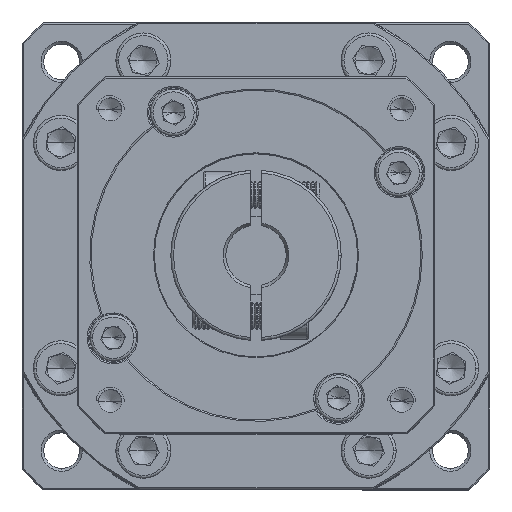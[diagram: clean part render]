
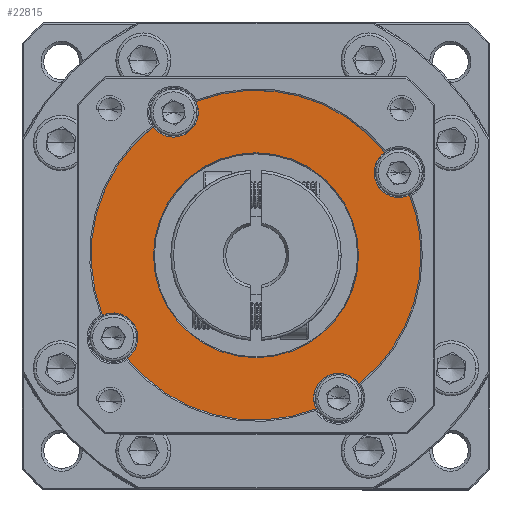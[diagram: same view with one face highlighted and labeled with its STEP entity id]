
A CAD part, top view. The second image highlights one B-rep face of the part: STEP entity #22815.
In plain terms, the highlighted planar face has unit normal (0, 0, 1).
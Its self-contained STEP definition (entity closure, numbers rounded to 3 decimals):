
#723 = CIRCLE ( 'NONE', #51315, 30. ) ;
#1530 = FACE_BOUND ( 'NONE', #109846, .T. ) ;
#2036 = CIRCLE ( 'NONE', #7206, 4.5 ) ;
#2268 = ORIENTED_EDGE ( 'NONE', *, *, #46998, .F. ) ;
#3233 = VERTEX_POINT ( 'NONE', #110262 ) ;
#5268 = PLANE ( 'NONE',  #122832 ) ;
#5563 = VERTEX_POINT ( 'NONE', #54831 ) ;
#5714 = CARTESIAN_POINT ( 'NONE',  ( -73.935, 34.27, 15.321 ) ) ;
#7206 = AXIS2_PLACEMENT_3D ( 'NONE', #110868, #131077, #26365 ) ;
#7210 = AXIS2_PLACEMENT_3D ( 'NONE', #125556, #136058, #73360 ) ;
#11445 = ORIENTED_EDGE ( 'NONE', *, *, #72538, .F. ) ;
#12403 = VERTEX_POINT ( 'NONE', #100104 ) ;
#13384 = DIRECTION ( 'NONE',  ( 0., 0., 1. ) ) ;
#14220 = CARTESIAN_POINT ( 'NONE',  ( -47.954, 49.27, 15.321 ) ) ;
#14308 = CARTESIAN_POINT ( 'NONE',  ( -50.49, 52.987, 15.321 ) ) ;
#14633 = ORIENTED_EDGE ( 'NONE', *, *, #106646, .T. ) ;
#15640 = ORIENTED_EDGE ( 'NONE', *, *, #80096, .F. ) ;
#16192 = CIRCLE ( 'NONE', #32915, 30. ) ;
#16244 = AXIS2_PLACEMENT_3D ( 'NONE', #86742, #128899, #45301 ) ;
#16867 = EDGE_CURVE ( 'NONE', #66163, #92515, #127999, .T. ) ;
#20450 = EDGE_CURVE ( 'NONE', #43132, #12403, #54061, .T. ) ;
#22489 = AXIS2_PLACEMENT_3D ( 'NONE', #60579, #102753, #122924 ) ;
#22600 = CARTESIAN_POINT ( 'NONE',  ( -88.935, 60.251, 15.321 ) ) ;
#22815 = ADVANCED_FACE ( 'NONE', ( #1530, #98481 ), #5268, .T. ) ;
#25671 = CIRCLE ( 'NONE', #22489, 30. ) ;
#26211 = CARTESIAN_POINT ( 'NONE',  ( -58.935, 8.289, 15.321 ) ) ;
#26365 = DIRECTION ( 'NONE',  ( 1., 0., 0. ) ) ;
#28425 = CARTESIAN_POINT ( 'NONE',  ( -88.935, 60.251, 15.321 ) ) ;
#30380 = VERTEX_POINT ( 'NONE', #38945 ) ;
#32343 = ORIENTED_EDGE ( 'NONE', *, *, #56116, .F. ) ;
#32718 = DIRECTION ( 'NONE',  ( 0., 0., 1. ) ) ;
#32915 = AXIS2_PLACEMENT_3D ( 'NONE', #117570, #13384, #43674 ) ;
#33588 = CARTESIAN_POINT ( 'NONE',  ( -97.379, 15.553, 15.321 ) ) ;
#34445 = DIRECTION ( 'NONE',  ( 1., 0., 0. ) ) ;
#37991 = VERTEX_POINT ( 'NONE', #84084 ) ;
#38052 = VERTEX_POINT ( 'NONE', #83660 ) ;
#38945 = CARTESIAN_POINT ( 'NONE',  ( -43.935, 34.27, 15.321 ) ) ;
#41030 = DIRECTION ( 'NONE',  ( 0., 0., 1. ) ) ;
#42650 = EDGE_CURVE ( 'NONE', #57349, #5563, #25671, .T. ) ;
#43132 = VERTEX_POINT ( 'NONE', #124319 ) ;
#43674 = DIRECTION ( 'NONE',  ( 1., 0., 0. ) ) ;
#43753 = CIRCLE ( 'NONE', #97185, 4.5 ) ;
#43871 = EDGE_CURVE ( 'NONE', #37991, #76664, #56607, .T. ) ;
#44284 = CARTESIAN_POINT ( 'NONE',  ( -52.454, 49.27, 15.321 ) ) ;
#45301 = DIRECTION ( 'NONE',  ( 1., 0., 0. ) ) ;
#45608 = ORIENTED_EDGE ( 'NONE', *, *, #84648, .F. ) ;
#45821 = DIRECTION ( 'NONE',  ( 0., 0., 1. ) ) ;
#46715 = DIRECTION ( 'NONE',  ( 1., 0., 0. ) ) ;
#46998 = EDGE_CURVE ( 'NONE', #114003, #5563, #52634, .T. ) ;
#47010 = AXIS2_PLACEMENT_3D ( 'NONE', #65764, #129932, #34445 ) ;
#47888 = DIRECTION ( 'NONE',  ( 0., 0., 1. ) ) ;
#50719 = AXIS2_PLACEMENT_3D ( 'NONE', #14220, #45821, #46715 ) ;
#51315 = AXIS2_PLACEMENT_3D ( 'NONE', #76674, #107768, #54999 ) ;
#51436 = AXIS2_PLACEMENT_3D ( 'NONE', #54901, #75230, #117770 ) ;
#51625 = DIRECTION ( 'NONE',  ( 1., 0., 0. ) ) ;
#52634 = CIRCLE ( 'NONE', #126906, 4.5 ) ;
#53458 = CIRCLE ( 'NONE', #119589, 4.5 ) ;
#54061 = CIRCLE ( 'NONE', #114605, 4.5 ) ;
#54609 = CARTESIAN_POINT ( 'NONE',  ( -47.954, 49.27, 15.321 ) ) ;
#54831 = CARTESIAN_POINT ( 'NONE',  ( -101.867, 23.325, 15.321 ) ) ;
#54901 = CARTESIAN_POINT ( 'NONE',  ( -73.935, 34.27, 15.321 ) ) ;
#54999 = DIRECTION ( 'NONE',  ( 1., 0., 0. ) ) ;
#56116 = EDGE_CURVE ( 'NONE', #59654, #114003, #2036, .T. ) ;
#56607 = CIRCLE ( 'NONE', #82578, 18.644 ) ;
#57100 = CARTESIAN_POINT ( 'NONE',  ( -73.935, 34.27, 15.321 ) ) ;
#57349 = VERTEX_POINT ( 'NONE', #93128 ) ;
#57566 = CIRCLE ( 'NONE', #51436, 30. ) ;
#58126 = EDGE_CURVE ( 'NONE', #30380, #110879, #16192, .T. ) ;
#58142 = CIRCLE ( 'NONE', #47010, 4.5 ) ;
#58356 = CARTESIAN_POINT ( 'NONE',  ( -95.415, 19.27, 15.321 ) ) ;
#58825 = ORIENTED_EDGE ( 'NONE', *, *, #103763, .T. ) ;
#59654 = VERTEX_POINT ( 'NONE', #33588 ) ;
#60579 = CARTESIAN_POINT ( 'NONE',  ( -73.935, 34.27, 15.321 ) ) ;
#65764 = CARTESIAN_POINT ( 'NONE',  ( -58.935, 8.289, 15.321 ) ) ;
#66163 = VERTEX_POINT ( 'NONE', #14308 ) ;
#69209 = CARTESIAN_POINT ( 'NONE',  ( -46.002, 45.215, 15.321 ) ) ;
#69390 = DIRECTION ( 'NONE',  ( 0., 0., 1. ) ) ;
#72538 = EDGE_CURVE ( 'NONE', #3233, #115964, #58142, .T. ) ;
#73360 = DIRECTION ( 'NONE',  ( 1., 0., 0. ) ) ;
#74811 = CARTESIAN_POINT ( 'NONE',  ( -62.989, 6.338, 15.321 ) ) ;
#75230 = DIRECTION ( 'NONE',  ( 0., 0., 1. ) ) ;
#76664 = VERTEX_POINT ( 'NONE', #122134 ) ;
#76674 = CARTESIAN_POINT ( 'NONE',  ( -73.935, 34.27, 15.321 ) ) ;
#77177 = DIRECTION ( 'NONE',  ( 1., 0., 0. ) ) ;
#78400 = DIRECTION ( 'NONE',  ( 1., 0., 0. ) ) ;
#79177 = DIRECTION ( 'NONE',  ( 0., 0., 1. ) ) ;
#80096 = EDGE_CURVE ( 'NONE', #38052, #3233, #114501, .T. ) ;
#82578 = AXIS2_PLACEMENT_3D ( 'NONE', #57100, #99301, #87904 ) ;
#83249 = ORIENTED_EDGE ( 'NONE', *, *, #20450, .F. ) ;
#83660 = CARTESIAN_POINT ( 'NONE',  ( -55.217, 10.825, 15.321 ) ) ;
#84084 = CARTESIAN_POINT ( 'NONE',  ( -92.579, 34.27, 15.321 ) ) ;
#84648 = EDGE_CURVE ( 'NONE', #92515, #110879, #43753, .T. ) ;
#86742 = CARTESIAN_POINT ( 'NONE',  ( -73.935, 34.27, 15.321 ) ) ;
#87897 = EDGE_LOOP ( 'NONE', ( #32343, #128399, #11445, #15640, #14633, #134021, #45608, #103919, #58825, #83249, #118633, #127233, #2268 ) ) ;
#87904 = DIRECTION ( 'NONE',  ( 1., 0., 0. ) ) ;
#92515 = VERTEX_POINT ( 'NONE', #44284 ) ;
#92994 = EDGE_CURVE ( 'NONE', #76664, #37991, #106958, .T. ) ;
#93128 = CARTESIAN_POINT ( 'NONE',  ( -92.652, 57.715, 15.321 ) ) ;
#95732 = ORIENTED_EDGE ( 'NONE', *, *, #43871, .T. ) ;
#96440 = EDGE_CURVE ( 'NONE', #57349, #43132, #53458, .T. ) ;
#97185 = AXIS2_PLACEMENT_3D ( 'NONE', #54609, #117925, #77177 ) ;
#98481 = FACE_OUTER_BOUND ( 'NONE', #87897, .T. ) ;
#99301 = DIRECTION ( 'NONE',  ( 0., 0., -1. ) ) ;
#100104 = CARTESIAN_POINT ( 'NONE',  ( -84.88, 62.202, 15.321 ) ) ;
#101931 = DIRECTION ( 'NONE',  ( 1., 0., 0. ) ) ;
#102753 = DIRECTION ( 'NONE',  ( 0., 0., 1. ) ) ;
#103763 = EDGE_CURVE ( 'NONE', #66163, #12403, #127087, .T. ) ;
#103919 = ORIENTED_EDGE ( 'NONE', *, *, #16867, .F. ) ;
#106646 = EDGE_CURVE ( 'NONE', #38052, #30380, #723, .T. ) ;
#106760 = ORIENTED_EDGE ( 'NONE', *, *, #92994, .T. ) ;
#106958 = CIRCLE ( 'NONE', #16244, 18.644 ) ;
#107768 = DIRECTION ( 'NONE',  ( 0., 0., 1. ) ) ;
#108907 = DIRECTION ( 'NONE',  ( 1., 0., 0. ) ) ;
#109846 = EDGE_LOOP ( 'NONE', ( #106760, #95732 ) ) ;
#110262 = CARTESIAN_POINT ( 'NONE',  ( -63.435, 8.289, 15.321 ) ) ;
#110868 = CARTESIAN_POINT ( 'NONE',  ( -99.915, 19.27, 15.321 ) ) ;
#110879 = VERTEX_POINT ( 'NONE', #69209 ) ;
#114003 = VERTEX_POINT ( 'NONE', #58356 ) ;
#114501 = CIRCLE ( 'NONE', #120255, 4.5 ) ;
#114605 = AXIS2_PLACEMENT_3D ( 'NONE', #22600, #32718, #116713 ) ;
#115964 = VERTEX_POINT ( 'NONE', #74811 ) ;
#116713 = DIRECTION ( 'NONE',  ( 1., 0., 0. ) ) ;
#117570 = CARTESIAN_POINT ( 'NONE',  ( -73.935, 34.27, 15.321 ) ) ;
#117770 = DIRECTION ( 'NONE',  ( 1., 0., 0. ) ) ;
#117925 = DIRECTION ( 'NONE',  ( 0., 0., 1. ) ) ;
#118633 = ORIENTED_EDGE ( 'NONE', *, *, #96440, .F. ) ;
#119589 = AXIS2_PLACEMENT_3D ( 'NONE', #28425, #69390, #101931 ) ;
#120255 = AXIS2_PLACEMENT_3D ( 'NONE', #26211, #79177, #108907 ) ;
#122134 = CARTESIAN_POINT ( 'NONE',  ( -55.29, 34.27, 15.321 ) ) ;
#122832 = AXIS2_PLACEMENT_3D ( 'NONE', #5714, #47888, #78400 ) ;
#122924 = DIRECTION ( 'NONE',  ( 1., 0., 0. ) ) ;
#124319 = CARTESIAN_POINT ( 'NONE',  ( -84.435, 60.251, 15.321 ) ) ;
#125556 = CARTESIAN_POINT ( 'NONE',  ( -73.935, 34.27, 15.321 ) ) ;
#126906 = AXIS2_PLACEMENT_3D ( 'NONE', #133777, #41030, #51625 ) ;
#127087 = CIRCLE ( 'NONE', #7210, 30. ) ;
#127233 = ORIENTED_EDGE ( 'NONE', *, *, #42650, .T. ) ;
#127999 = CIRCLE ( 'NONE', #50719, 4.5 ) ;
#128399 = ORIENTED_EDGE ( 'NONE', *, *, #132499, .T. ) ;
#128899 = DIRECTION ( 'NONE',  ( 0., 0., -1. ) ) ;
#129932 = DIRECTION ( 'NONE',  ( 0., 0., 1. ) ) ;
#131077 = DIRECTION ( 'NONE',  ( 0., 0., 1. ) ) ;
#132499 = EDGE_CURVE ( 'NONE', #59654, #115964, #57566, .T. ) ;
#133777 = CARTESIAN_POINT ( 'NONE',  ( -99.915, 19.27, 15.321 ) ) ;
#134021 = ORIENTED_EDGE ( 'NONE', *, *, #58126, .T. ) ;
#136058 = DIRECTION ( 'NONE',  ( 0., 0., 1. ) ) ;
